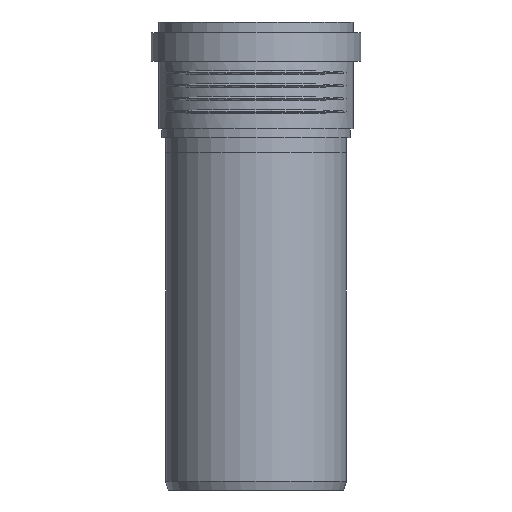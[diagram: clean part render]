
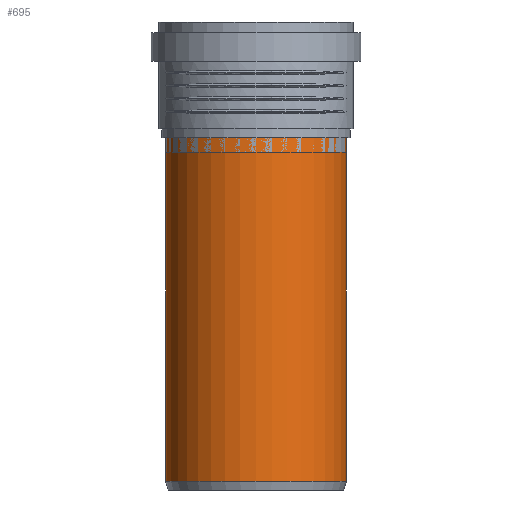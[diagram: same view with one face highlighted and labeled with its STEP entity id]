
A CAD part, front view. The second image highlights one B-rep face of the part: STEP entity #695.
In plain terms, the highlighted cylindrical face has radius 62.6 mm (diameter 125.2 mm), a full revolution.
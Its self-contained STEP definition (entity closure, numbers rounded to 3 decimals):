
#94=CYLINDRICAL_SURFACE($,#750,62.6);
#118=FACE_BOUND($,#198,.T.);
#153=FACE_OUTER_BOUND($,#197,.T.);
#197=EDGE_LOOP($,(#472));
#198=EDGE_LOOP($,(#473));
#272=CIRCLE($,#747,62.6);
#274=CIRCLE($,#751,62.6);
#311=VERTEX_POINT($,#1021);
#313=VERTEX_POINT($,#1027);
#382=EDGE_CURVE($,#311,#311,#272,.T.);
#384=EDGE_CURVE($,#313,#313,#274,.T.);
#472=ORIENTED_EDGE($,*,*,#384,.T.);
#473=ORIENTED_EDGE($,*,*,#382,.F.);
#695=ADVANCED_FACE($,(#153,#118),#94,.T.);
#747=AXIS2_PLACEMENT_3D($,#1022,#841,#842);
#750=AXIS2_PLACEMENT_3D($,#1026,#847,#848);
#751=AXIS2_PLACEMENT_3D($,#1028,#849,#850);
#841=DIRECTION('center_axis',(0.,0.,-1.));
#842=DIRECTION('ref_axis',(-1.,0.,0.));
#847=DIRECTION('center_axis',(0.,0.,1.));
#848=DIRECTION('ref_axis',(-1.,0.,0.));
#849=DIRECTION('center_axis',(0.,0.,-1.));
#850=DIRECTION('ref_axis',(-1.,0.,0.));
#1021=CARTESIAN_POINT('',(62.6,0.,-115.9));
#1022=CARTESIAN_POINT('Origin',(0.,0.,-115.9));
#1026=CARTESIAN_POINT('Origin',(0.,0.,0.));
#1027=CARTESIAN_POINT('',(62.6,0.,121.9));
#1028=CARTESIAN_POINT('Origin',(0.,0.,121.9));
